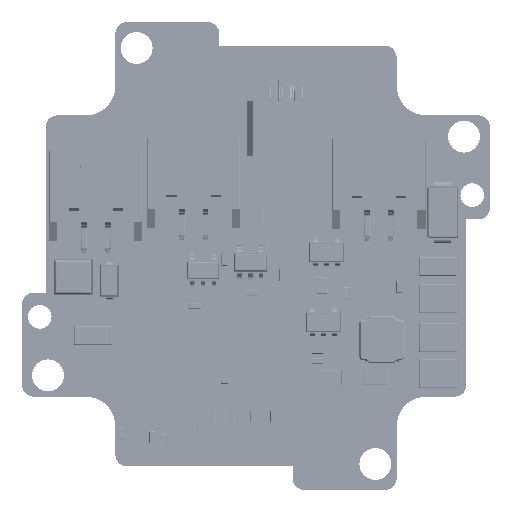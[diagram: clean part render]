
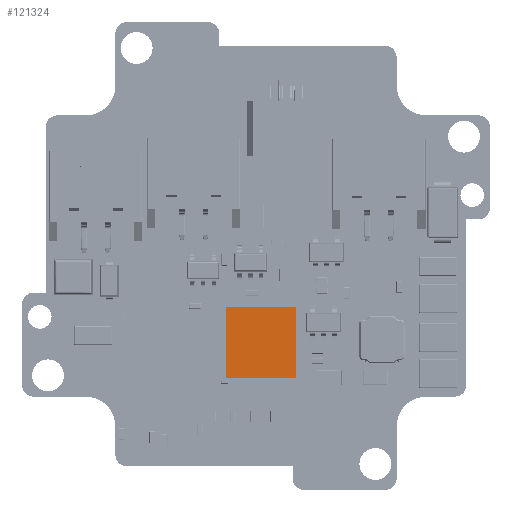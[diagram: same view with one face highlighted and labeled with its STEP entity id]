
A CAD part, front view. The second image highlights one B-rep face of the part: STEP entity #121324.
In plain terms, the highlighted planar face has unit normal (0, -1, 0).
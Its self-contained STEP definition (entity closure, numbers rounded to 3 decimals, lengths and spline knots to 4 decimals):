
#7580=LINE('',#439292,#39836);
#7581=LINE('',#439295,#39837);
#7582=LINE('',#439297,#39838);
#7583=LINE('',#439299,#39839);
#39836=VECTOR('',#355562,1.);
#39837=VECTOR('',#355563,1.);
#39838=VECTOR('',#355564,1.);
#39839=VECTOR('',#355565,1.);
#101220=FACE_OUTER_BOUND('',#150561,.T.);
#121324=ADVANCED_FACE('',(#101220),#137609,.T.);
#137609=PLANE('',#327180);
#150561=EDGE_LOOP('',(#174046,#174047,#174048,#174049));
#174046=ORIENTED_EDGE('',*,*,#279876,.T.);
#174047=ORIENTED_EDGE('',*,*,#279877,.T.);
#174048=ORIENTED_EDGE('',*,*,#279878,.T.);
#174049=ORIENTED_EDGE('',*,*,#279879,.T.);
#250501=VERTEX_POINT('',#439293);
#250502=VERTEX_POINT('',#439294);
#250503=VERTEX_POINT('',#439296);
#250504=VERTEX_POINT('',#439298);
#279876=EDGE_CURVE('',#250501,#250502,#7580,.T.);
#279877=EDGE_CURVE('',#250502,#250503,#7581,.T.);
#279878=EDGE_CURVE('',#250503,#250504,#7582,.T.);
#279879=EDGE_CURVE('',#250504,#250501,#7583,.T.);
#327180=AXIS2_PLACEMENT_3D('',#439300,#355566,#355567);
#355562=DIRECTION('',(0.,0.,-1.));
#355563=DIRECTION('',(1.,0.,0.));
#355564=DIRECTION('',(0.,0.,1.));
#355565=DIRECTION('',(-1.,0.,0.));
#355566=DIRECTION('',(0.,-1.,0.));
#355567=DIRECTION('',(0.,0.,-1.));
#439292=CARTESIAN_POINT('',(-2.574,-119.,-4.2825));
#439293=CARTESIAN_POINT('',(-2.574,-119.,-4.2825));
#439294=CARTESIAN_POINT('',(-2.574,-119.,-10.2825));
#439295=CARTESIAN_POINT('',(-2.574,-119.,-10.2825));
#439296=CARTESIAN_POINT('',(3.426,-119.,-10.2825));
#439297=CARTESIAN_POINT('',(3.426,-119.,-10.2825));
#439298=CARTESIAN_POINT('',(3.426,-119.,-4.2825));
#439299=CARTESIAN_POINT('',(3.426,-119.,-4.2825));
#439300=CARTESIAN_POINT('',(0.426,-119.,-7.2825));
